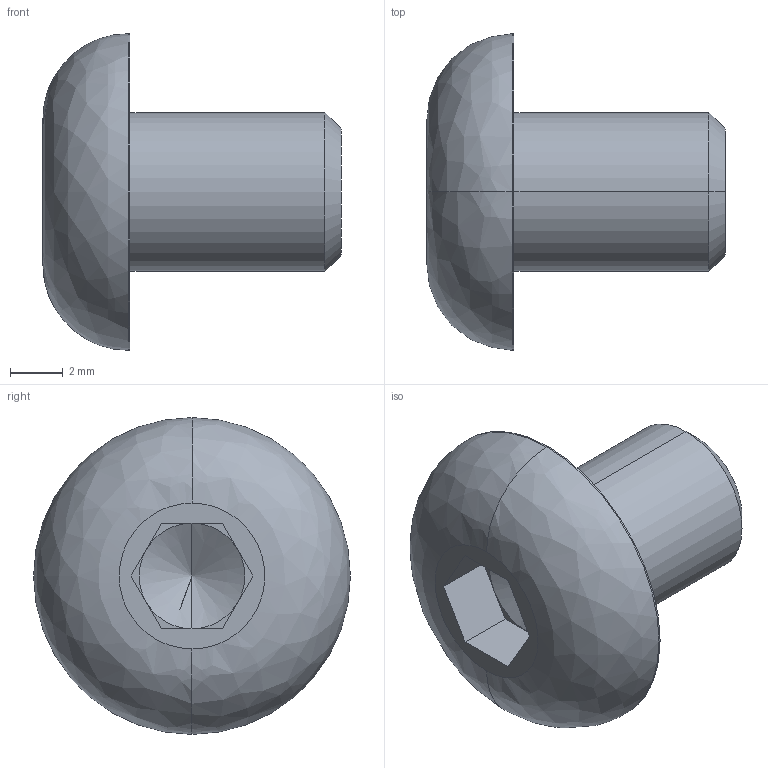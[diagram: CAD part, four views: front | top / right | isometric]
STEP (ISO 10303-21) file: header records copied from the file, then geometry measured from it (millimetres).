
FILE_DESCRIPTION (( 'STEP AP214' ), '1' );
FILE_NAME ('ISO7380_6x8.STEP', '2016-05-18T14:45:44', ( '' ), ( '' ), 'SwSTEP 2.0', 'SolidWorks 2014', '' );
FILE_SCHEMA (( 'AUTOMOTIVE_DESIGN' ));
Length unit declared in the file: millimetre
Products named in the file (1): ISO7380_6x8
Bounding box: 11.3 x 12 x 12 mm (x, y, z)
Volume: 486.9 mm3; surface area: 468.7 mm2
Topology: 1 solids, 1 shells, 28 faces, 62 edges, 36 vertices
Faces by surface type: plane 15, cylinder 7, cone 4, bspline 2
Entity records: 808 total; most frequent: CARTESIAN_POINT 164, DIRECTION 135, ORIENTED_EDGE 120, EDGE_CURVE 60, AXIS2_PLACEMENT_3D 51, VERTEX_POINT 36, VECTOR 33, LINE 33
